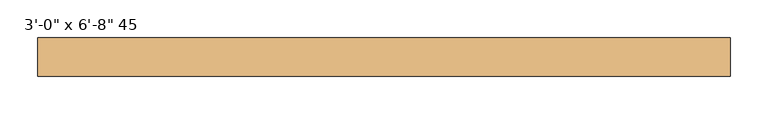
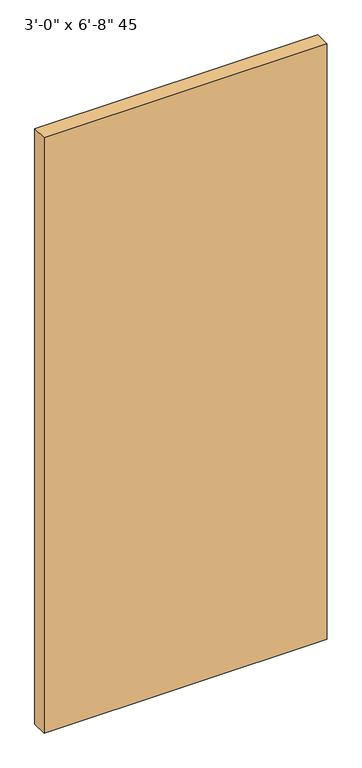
"""IFC4 building model written with IfcOpenShell, lengths in millimetres: door geometry."""

from ifc_helpers import new_model, si_unit, origin, origin_with_axes, place, context, project, spatial, polyline, outline, extrude, source, transform, mapped, element, save


def door_b9824f6c(model_context):
    return source(origin(), model_context, "Body", "SweptSolid", [
        extrude(outline(polyline([(457.2, 6.15), (-457.2, 6.15), (-457.2, 57.15), (457.2, 57.15), (457.2, 6.15)])), origin_with_axes(), (0.0, 0.0, 1.0), 2032.0),
    ])


if __name__ == "__main__":
    model = new_model("IFC4")
    model_context = context("Model", 3, world=origin())
    ifc_project = project(units=[si_unit("LENGTHUNIT", "METRE", prefix="MILLI")], contexts=[model_context])
    site = spatial("IfcSite", under=ifc_project)
    building = spatial("IfcBuilding", under=site)
    placement = place(None, origin())
    door_shape = door_b9824f6c(model_context)
    element("IfcDoor", 1, ObjectType="Planitar - Single Door_Flush Panel : 3'-0\" x 6'-8\" 45", at=placement, inside=building, context=model_context, shape_type="MappedRepresentation", body=[
        mapped(door_shape, transform((0.0, 0.0, 0.0), x_axis=(1.0, 0.0, 0.0), y_axis=(0.0, 1.0, 0.0), z_axis=(0.0, 0.0, 1.0))),
    ])
    save(model, "model.ifc")
